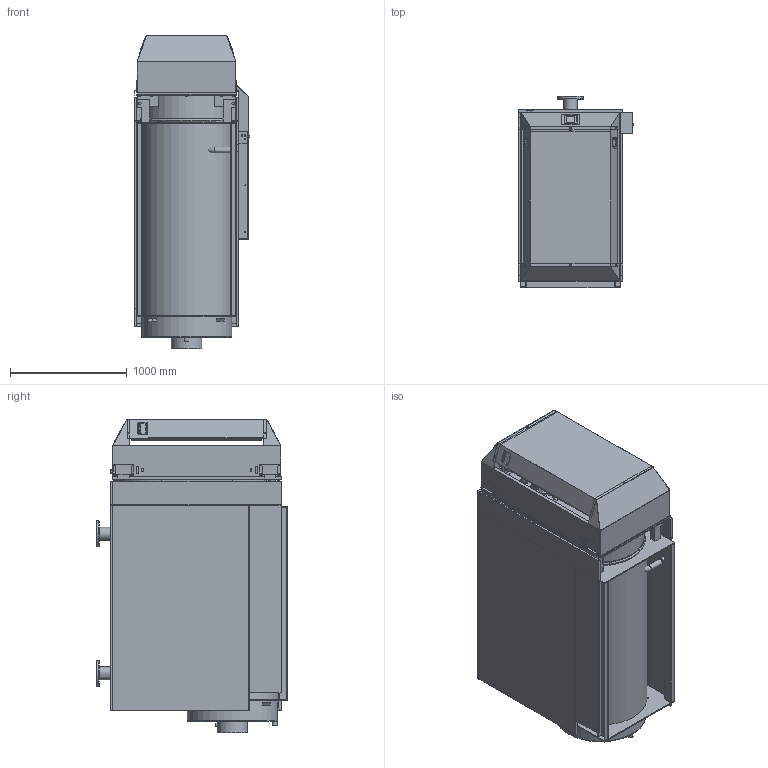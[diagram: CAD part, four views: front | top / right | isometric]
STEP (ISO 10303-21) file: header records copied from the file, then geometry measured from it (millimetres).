
FILE_DESCRIPTION (( 'STEP AP203' ), '1' );
FILE_NAME ('GT3 400.STEP', '2019-03-11T14:03:28', ( '' ), ( '' ), 'SwSTEP 2.0', 'SolidWorks 2019', '' );
FILE_SCHEMA (( 'CONFIG_CONTROL_DESIGN' ));
Length unit declared in the file: millimetre
Products named in the file (1): GT3 400
Bounding box: 990.78 x 1636.5 x 2690.33 mm (x, y, z)
Surface area: 49483413.2 mm2 (no closed solid volume)
Topology: 0 solids, 268 shells, 1009 faces, 5368 edges, 4505 vertices
Faces by surface type: plane 546, cylinder 286, torus 85, sphere 52, bspline 29, cone 11
Full cylindrical faces by diameter (mm): 5 x3, 8 x4, 9 x1, 10 x2, 12 x3, 14 x3, 16 x2, 18 x16, 18.8 x1, 20.1 x4, 25 x2, 26.4 x1, 30 x3, 30.4 x1, 39.5 x1, 48 x1, 48.1 x1, 48.3 x1, 53.1 x10, 55 x3, 60 x3, 60.3 x10, 66.3 x1, 66.5 x1, 68 x1, 108.3 x2, 114.3 x2, 115 x2, 220 x2, 240 x1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
Entity records: 56006 total; most frequent: CARTESIAN_POINT 15065, DIRECTION 8331, ORIENTED_EDGE 6169, EDGE_CURVE 5185, VERTEX_POINT 4473, LINE 3145, VECTOR 3145, AXIS2_PLACEMENT_3D 2593
